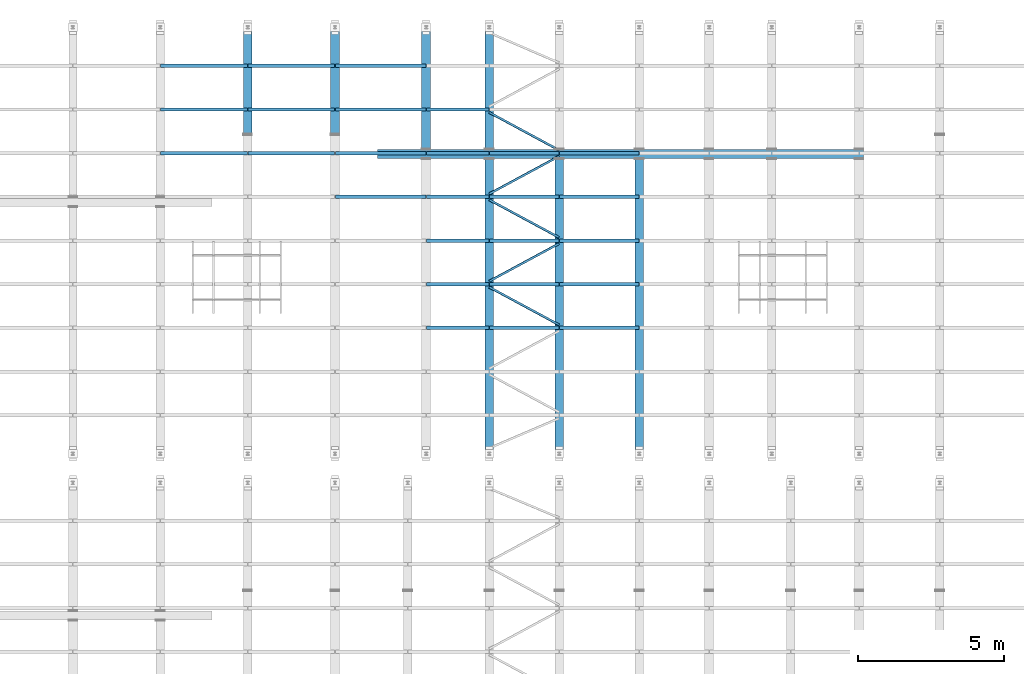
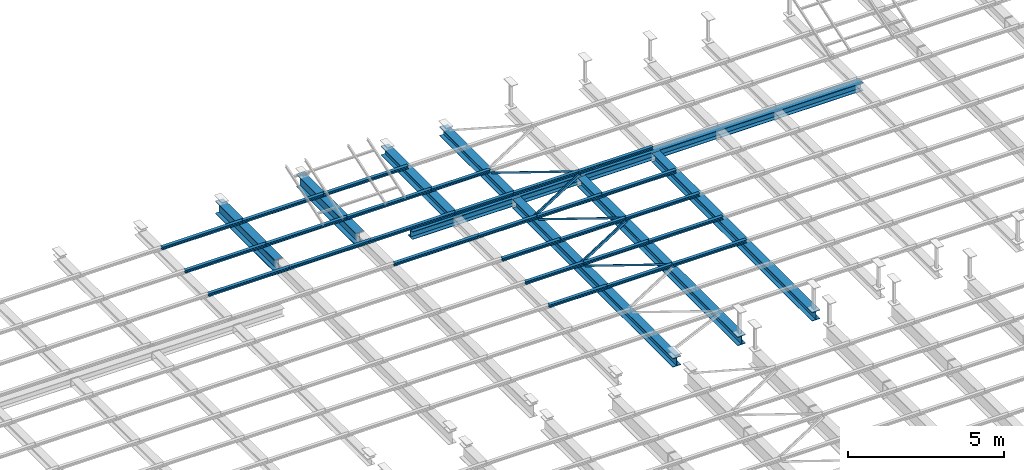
# One storey, part 83 of 139: 39 beams.
"""IFC2X3 building model written with IfcOpenShell, lengths in metres."""

from ifc_helpers import new_model, entity, si_unit, converted_unit, derived_unit, frame, origin, place, context, subcontext, project, spatial, polyline, outline, extrude, material, element, save


model = new_model("IFC2X3")

# Units and contexts
model_context = context("Model", 3, precision=1e-05, world=origin())
body_context = subcontext(model_context, "Body", "Model", "MODEL_VIEW")
ifc_project = project(units=[si_unit("LENGTHUNIT", "METRE"), si_unit("AREAUNIT", "SQUARE_METRE"), si_unit("VOLUMEUNIT", "CUBIC_METRE"), si_unit("MASSUNIT", "GRAM", prefix="KILO"), converted_unit("PLANEANGLEUNIT", "DEGREE", entity("IfcPlaneAngleMeasure", 0.0174532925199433), si_unit("PLANEANGLEUNIT", "RADIAN"), dimensions=[0, 0, 0, 0, 0, 0, 0]), derived_unit("THERMALTRANSMITTANCEUNIT", [(si_unit("POWERUNIT", "WATT"), 1), (si_unit("THERMODYNAMICTEMPERATUREUNIT", "KELVIN"), -1), (si_unit("LENGTHUNIT", "METRE"), -2)]), derived_unit("VOLUMETRICFLOWRATEUNIT", [(si_unit("LENGTHUNIT", "METRE"), 3), (converted_unit("TIMEUNIT", "hour", entity("IfcTimeMeasure", 3600.0), si_unit("TIMEUNIT", "SECOND"), dimensions=[0, 0, 1, 0, 0, 0, 0]), -1), (si_unit("LENGTHUNIT", "METRE"), -1)])], contexts=[model_context])

# Site, building, storey
site_placement = place(None, origin())
site = spatial("IfcSite", under=ifc_project, at=site_placement, Name="TWP_Speiseverteilzentrum SBW VZ II", CompositionType="ELEMENT")
building_placement = place(site_placement, origin())
building = spatial("IfcBuilding", under=site, at=building_placement, Name="Speiseverteilzentrum SBW VZ II", CompositionType="ELEMENT")
storey_placement = place(building_placement, frame((0.0, 0.0, 7.1307)))
storey = spatial("IfcBuildingStorey", under=building, at=storey_placement, Name="Wartung_FFB", CompositionType="ELEMENT", Elevation=7.1307)

# Beams
ifc_material_1 = material(Name="S235")
beam_1_placement = place(storey_placement, frame((80.5146643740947, 81.1994153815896, -0.345), z_axis=(0.0, 0.0, 1.0), x_axis=(-1.22464679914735e-16, -1.0, 0.0)))
element("IfcBeam", 1, at=beam_1_placement, inside=storey, material=ifc_material_1, Name="Stahlträger", context=body_context, shape_type="SweptSolid", body=[
    extrude(outline(polyline([(-0.15, 0.155), (-0.15, 0.1395), (-0.00449999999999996, 0.1395), (-0.00449999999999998, -0.1395), (-0.15, -0.1395), (-0.15, -0.155), (0.15, -0.155), (0.15, -0.1395), (0.00450000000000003, -0.1395), (0.00450000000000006, 0.1395), (0.15, 0.1395), (0.15, 0.155), (-0.15, 0.155)])), frame((0.0, 0.0, 0.0), z_axis=(0.0, 1.0, 0.0), x_axis=(-1.0, 0.0, 0.0)), (0.0, 0.0, 1.0), 16.6853356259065),
])
ifc_material_2 = material(Name="S235")
beam_2_placement = place(storey_placement, frame((79.0500000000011, 85.7000000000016, -0.435), z_axis=(0.0, 0.0, 1.0), x_axis=(-1.0, 0.0, 0.0)))
element("IfcBeam", 2, at=beam_2_placement, inside=storey, material=ifc_material_2, Name="Stahlträger", context=body_context, shape_type="SweptSolid", body=[
    extrude(outline(polyline([(-0.15, 0.245), (-0.15, 0.222), (-0.00599999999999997, 0.222), (-0.006, -0.222), (-0.15, -0.222), (-0.15, -0.245), (0.15, -0.245), (0.15, -0.222), (0.00600000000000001, -0.222), (0.00600000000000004, 0.222), (0.15, 0.222), (0.15, 0.245), (-0.15, 0.245)])), frame((0.0, 0.0, 0.0), z_axis=(0.0, 1.0, 0.0), x_axis=(-1.0, 0.0, 0.0)), (0.0, 0.0, 1.0), 3.80699999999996),
])
ifc_material_3 = material(Name="S235")
beam_3_placement = place(storey_placement, frame((76.0500000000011, 85.7000000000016, -0.435), z_axis=(0.0, 0.0, 1.0), x_axis=(-1.0, 0.0, 0.0)))
element("IfcBeam", 3, at=beam_3_placement, inside=storey, material=ifc_material_3, Name="Stahlträger", context=body_context, shape_type="SweptSolid", body=[
    extrude(outline(polyline([(-0.15, 0.245), (-0.15, 0.222), (-0.00599999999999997, 0.222), (-0.006, -0.222), (-0.15, -0.222), (-0.15, -0.245), (0.15, -0.245), (0.15, -0.222), (0.00600000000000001, -0.222), (0.00600000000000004, 0.222), (0.15, 0.222), (0.15, 0.245), (-0.15, 0.245)])), frame((0.0, 0.0, 0.0), z_axis=(0.0, 1.0, 0.0), x_axis=(-1.0, 0.0, 0.0)), (0.0, 0.0, 1.0), 3.80699999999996),
])
ifc_material_4 = material(Name="S235")
beam_4_placement = place(storey_placement, frame((84.3500000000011, 85.7000000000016, -0.365), z_axis=(0.0, 0.0, 1.0), x_axis=(-1.0, 0.0, 0.0)))
element("IfcBeam", 4, at=beam_4_placement, inside=storey, material=ifc_material_4, Name="Stahlträger", context=body_context, shape_type="SweptSolid", body=[
    extrude(outline(polyline([(-0.15, 0.175), (-0.15, 0.1575), (-0.00500000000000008, 0.1575), (-0.0050000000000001, -0.1575), (-0.15, -0.1575), (-0.15, -0.175), (0.15, -0.175), (0.15, -0.1575), (0.0049999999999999, -0.1575), (0.00499999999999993, 0.1575), (0.15, 0.1575), (0.15, 0.175), (-0.15, 0.175)])), frame((0.0, 0.0, 0.0), z_axis=(0.0, 1.0, 0.0), x_axis=(-1.0, 0.0, 0.0)), (0.0, 0.0, 1.0), 4.32558461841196),
])
ifc_material_5 = material(Name="S235")
beam_5_placement = place(storey_placement, frame((82.1800000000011, 85.7000000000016, -0.365), z_axis=(0.0, 0.0, 1.0), x_axis=(-1.0, 0.0, 0.0)))
element("IfcBeam", 5, at=beam_5_placement, inside=storey, material=ifc_material_5, Name="Stahlträger", context=body_context, shape_type="SweptSolid", body=[
    extrude(outline(polyline([(-0.15, 0.175), (-0.15, 0.1575), (-0.00500000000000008, 0.1575), (-0.0050000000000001, -0.1575), (-0.15, -0.1575), (-0.15, -0.175), (0.15, -0.175), (0.15, -0.1575), (0.0049999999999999, -0.1575), (0.00499999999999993, 0.1575), (0.15, 0.1575), (0.15, 0.175), (-0.15, 0.175)])), frame((0.0, 0.0, 0.0), z_axis=(0.0, 1.0, 0.0), x_axis=(-1.0, 0.0, 0.0)), (0.0, 0.0, 1.0), 4.32558461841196),
])
ifc_material_6 = material(Name="S235")
beam_6_placement = place(storey_placement, frame((84.3500000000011, 81.0244153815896, -0.365), z_axis=(0.0, 0.0, 1.0), x_axis=(-1.0, 0.0, 0.0)))
element("IfcBeam", 6, at=beam_6_placement, inside=storey, material=ifc_material_6, Name="Stahlträger", context=body_context, shape_type="SweptSolid", body=[
    extrude(outline(polyline([(-0.15, 0.175), (-0.15, 0.1575), (-0.00500000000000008, 0.1575), (-0.0050000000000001, -0.1575), (-0.15, -0.1575), (-0.15, -0.175), (0.15, -0.175), (0.15, -0.1575), (0.0049999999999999, -0.1575), (0.00499999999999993, 0.1575), (0.15, 0.1575), (0.15, 0.175), (-0.15, 0.175)])), frame((0.0, 0.0, 0.0), z_axis=(0.0, 1.0, 0.0), x_axis=(-1.0, 0.0, 0.0)), (0.0, 0.0, 1.0), 10.272162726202),
])
ifc_material_7 = material(Name="S235")
beam_7_placement = place(storey_placement, frame((86.7500000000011, 81.0244153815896, -0.365), z_axis=(0.0, 0.0, 1.0), x_axis=(-1.0, 0.0, 0.0)))
element("IfcBeam", 7, at=beam_7_placement, inside=storey, material=ifc_material_7, Name="Stahlträger", context=body_context, shape_type="SweptSolid", body=[
    extrude(outline(polyline([(-0.15, 0.175), (-0.15, 0.1575), (-0.00500000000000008, 0.1575), (-0.0050000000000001, -0.1575), (-0.15, -0.1575), (-0.15, -0.175), (0.15, -0.175), (0.15, -0.1575), (0.0049999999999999, -0.1575), (0.00499999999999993, 0.1575), (0.15, 0.1575), (0.15, 0.175), (-0.15, 0.175)])), frame((0.0, 0.0, 0.0), z_axis=(0.0, 1.0, 0.0), x_axis=(-1.0, 0.0, 0.0)), (0.0, 0.0, 1.0), 10.272162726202),
])
ifc_material_8 = material(Name="S235")
beam_8_placement = place(storey_placement, frame((89.5000000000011, 81.0244153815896, -0.365), z_axis=(0.0, 0.0, 1.0), x_axis=(-1.0, 0.0, 0.0)))
element("IfcBeam", 8, at=beam_8_placement, inside=storey, material=ifc_material_8, Name="Stahlträger", context=body_context, shape_type="SweptSolid", body=[
    extrude(outline(polyline([(-0.15, 0.175), (-0.15, 0.1575), (-0.00500000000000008, 0.1575), (-0.0050000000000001, -0.1575), (-0.15, -0.1575), (-0.15, -0.175), (0.15, -0.175), (0.15, -0.1575), (0.0049999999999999, -0.1575), (0.00499999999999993, 0.1575), (0.15, 0.1575), (0.15, 0.175), (-0.15, 0.175)])), frame((0.0, 0.0, 0.0), z_axis=(0.0, 1.0, 0.0), x_axis=(-1.0, 0.0, 0.0)), (0.0, 0.0, 1.0), 10.272162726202),
])
ifc_material_9 = material(Name="S235")
beam_9_placement = place(storey_placement, frame((73.0600000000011, 84.2261263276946, -0.133), z_axis=(0.0, 0.0, 1.0), x_axis=(0.0, -1.0, 0.0)))
element("IfcBeam", 9, at=beam_9_placement, inside=storey, material=ifc_material_9, Name="Nebenträger", context=body_context, shape_type="SweptSolid", body=[
    extrude(outline(polyline([(-0.06, 0.0570000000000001), (-0.06, 0.0490000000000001), (-0.00249999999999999, 0.0490000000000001), (-0.0025, -0.0489999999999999), (-0.06, -0.0489999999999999), (-0.06, -0.0569999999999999), (0.06, -0.0569999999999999), (0.06, -0.0489999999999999), (0.0025, -0.0489999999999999), (0.00250000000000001, 0.0490000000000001), (0.06, 0.0490000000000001), (0.06, 0.0570000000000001), (-0.06, 0.0570000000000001)])), frame((0.0, 0.0, 0.0), z_axis=(0.0, 1.0, 0.0), x_axis=(-1.0, 0.0, 0.0)), (0.0, 0.0, 1.0), 2.98),
])
ifc_material_10 = material(Name="S235")
beam_10_placement = place(storey_placement, frame((76.0600000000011, 84.2261263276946, -0.133), z_axis=(0.0, 0.0, 1.0), x_axis=(0.0, -1.0, 0.0)))
element("IfcBeam", 10, at=beam_10_placement, inside=storey, material=ifc_material_10, Name="Nebenträger", context=body_context, shape_type="SweptSolid", body=[
    extrude(outline(polyline([(-0.06, 0.0570000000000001), (-0.06, 0.0490000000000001), (-0.00249999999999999, 0.0490000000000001), (-0.0025, -0.0489999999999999), (-0.06, -0.0489999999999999), (-0.06, -0.0569999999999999), (0.06, -0.0569999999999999), (0.06, -0.0489999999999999), (0.0025, -0.0489999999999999), (0.00250000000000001, 0.0490000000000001), (0.06, 0.0490000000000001), (0.06, 0.0570000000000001), (-0.06, 0.0570000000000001)])), frame((0.0, 0.0, 0.0), z_axis=(0.0, 1.0, 0.0), x_axis=(-1.0, 0.0, 0.0)), (0.0, 0.0, 1.0), 2.98),
])
ifc_material_11 = material(Name="S235")
beam_11_placement = place(storey_placement, frame((73.0600000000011, 82.7261263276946, -0.133), z_axis=(0.0, 0.0, 1.0), x_axis=(0.0, -1.0, 0.0)))
element("IfcBeam", 11, at=beam_11_placement, inside=storey, material=ifc_material_11, Name="Nebenträger", context=body_context, shape_type="SweptSolid", body=[
    extrude(outline(polyline([(-0.06, 0.0570000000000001), (-0.06, 0.0490000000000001), (-0.00249999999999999, 0.0490000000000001), (-0.0025, -0.0489999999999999), (-0.06, -0.0489999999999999), (-0.06, -0.0569999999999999), (0.06, -0.0569999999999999), (0.06, -0.0489999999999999), (0.0025, -0.0489999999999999), (0.00250000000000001, 0.0490000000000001), (0.06, 0.0490000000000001), (0.06, 0.0570000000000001), (-0.06, 0.0570000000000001)])), frame((0.0, 0.0, 0.0), z_axis=(0.0, 1.0, 0.0), x_axis=(-1.0, 0.0, 0.0)), (0.0, 0.0, 1.0), 2.98),
])
ifc_material_12 = material(Name="S235")
beam_12_placement = place(storey_placement, frame((76.0600000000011, 82.7261263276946, -0.133), z_axis=(0.0, 0.0, 1.0), x_axis=(0.0, -1.0, 0.0)))
element("IfcBeam", 12, at=beam_12_placement, inside=storey, material=ifc_material_12, Name="Nebenträger", context=body_context, shape_type="SweptSolid", body=[
    extrude(outline(polyline([(-0.06, 0.0570000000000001), (-0.06, 0.0490000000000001), (-0.00249999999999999, 0.0490000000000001), (-0.0025, -0.0489999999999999), (-0.06, -0.0489999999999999), (-0.06, -0.0569999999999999), (0.06, -0.0569999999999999), (0.06, -0.0489999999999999), (0.0025, -0.0489999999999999), (0.00250000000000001, 0.0490000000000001), (0.06, 0.0490000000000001), (0.06, 0.0570000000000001), (-0.06, 0.0570000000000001)])), frame((0.0, 0.0, 0.0), z_axis=(0.0, 1.0, 0.0), x_axis=(-1.0, 0.0, 0.0)), (0.0, 0.0, 1.0), 2.98),
])
ifc_material_13 = material(Name="S235")
beam_13_placement = place(storey_placement, frame((73.0600000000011, 81.2261263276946, -0.133), z_axis=(0.0, 0.0, 1.0), x_axis=(0.0, -1.0, 0.0)))
element("IfcBeam", 13, at=beam_13_placement, inside=storey, material=ifc_material_13, Name="Nebenträger", context=body_context, shape_type="SweptSolid", body=[
    extrude(outline(polyline([(-0.06, 0.0570000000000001), (-0.06, 0.0490000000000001), (-0.00249999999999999, 0.0490000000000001), (-0.0025, -0.0489999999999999), (-0.06, -0.0489999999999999), (-0.06, -0.0569999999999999), (0.06, -0.0569999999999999), (0.06, -0.0489999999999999), (0.0025, -0.0489999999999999), (0.00250000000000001, 0.0490000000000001), (0.06, 0.0490000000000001), (0.06, 0.0570000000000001), (-0.06, 0.0570000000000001)])), frame((0.0, 0.0, 0.0), z_axis=(0.0, 1.0, 0.0), x_axis=(-1.0, 0.0, 0.0)), (0.0, 0.0, 1.0), 2.98),
])
ifc_material_14 = material(Name="S235")
beam_14_placement = place(storey_placement, frame((76.0600000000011, 81.2261263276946, -0.133), z_axis=(0.0, 0.0, 1.0), x_axis=(0.0, -1.0, 0.0)))
element("IfcBeam", 14, at=beam_14_placement, inside=storey, material=ifc_material_14, Name="Nebenträger", context=body_context, shape_type="SweptSolid", body=[
    extrude(outline(polyline([(-0.06, 0.0570000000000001), (-0.06, 0.0490000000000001), (-0.00249999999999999, 0.0490000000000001), (-0.0025, -0.0489999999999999), (-0.06, -0.0489999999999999), (-0.06, -0.0569999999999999), (0.06, -0.0569999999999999), (0.06, -0.0489999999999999), (0.0025, -0.0489999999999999), (0.00250000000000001, 0.0490000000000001), (0.06, 0.0490000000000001), (0.06, 0.0570000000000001), (-0.06, 0.0570000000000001)])), frame((0.0, 0.0, 0.0), z_axis=(0.0, 1.0, 0.0), x_axis=(-1.0, 0.0, 0.0)), (0.0, 0.0, 1.0), 2.98),
])
ifc_material_15 = material(Name="S235")
beam_15_placement = place(storey_placement, frame((86.7600000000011, 81.2261263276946, -0.133), z_axis=(0.0, 0.0, 1.0), x_axis=(0.0, -1.0, 0.0)))
element("IfcBeam", 15, at=beam_15_placement, inside=storey, material=ifc_material_15, Name="Nebenträger", context=body_context, shape_type="SweptSolid", body=[
    extrude(outline(polyline([(-0.06, 0.0570000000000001), (-0.06, 0.0490000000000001), (-0.00249999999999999, 0.0490000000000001), (-0.0025, -0.0489999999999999), (-0.06, -0.0489999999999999), (-0.06, -0.0569999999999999), (0.06, -0.0569999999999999), (0.06, -0.0489999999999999), (0.0025, -0.0489999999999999), (0.00250000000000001, 0.0490000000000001), (0.06, 0.0490000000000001), (0.06, 0.0570000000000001), (-0.06, 0.0570000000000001)])), frame((0.0, 0.0, 0.0), z_axis=(0.0, 1.0, 0.0), x_axis=(-1.0, 0.0, 0.0)), (0.0, 0.0, 1.0), 2.73),
])
ifc_material_16 = material(Name="S235")
beam_16_placement = place(storey_placement, frame((86.7600000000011, 79.7261263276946, -0.133), z_axis=(0.0, 0.0, 1.0), x_axis=(0.0, -1.0, 0.0)))
element("IfcBeam", 16, at=beam_16_placement, inside=storey, material=ifc_material_16, Name="Nebenträger", context=body_context, shape_type="SweptSolid", body=[
    extrude(outline(polyline([(-0.06, 0.0570000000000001), (-0.06, 0.0490000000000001), (-0.00249999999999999, 0.0490000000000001), (-0.0025, -0.0489999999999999), (-0.06, -0.0489999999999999), (-0.06, -0.0569999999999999), (0.06, -0.0569999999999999), (0.06, -0.0489999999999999), (0.0025, -0.0489999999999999), (0.00250000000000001, 0.0490000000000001), (0.06, 0.0490000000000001), (0.06, 0.0570000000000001), (-0.06, 0.0570000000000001)])), frame((0.0, 0.0, 0.0), z_axis=(0.0, 1.0, 0.0), x_axis=(-1.0, 0.0, 0.0)), (0.0, 0.0, 1.0), 2.73),
])
ifc_material_17 = material(Name="S235")
beam_17_placement = place(storey_placement, frame((86.7600000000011, 78.2261263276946, -0.133), z_axis=(0.0, 0.0, 1.0), x_axis=(0.0, -1.0, 0.0)))
element("IfcBeam", 17, at=beam_17_placement, inside=storey, material=ifc_material_17, Name="Nebenträger", context=body_context, shape_type="SweptSolid", body=[
    extrude(outline(polyline([(-0.06, 0.0570000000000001), (-0.06, 0.0490000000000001), (-0.00249999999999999, 0.0490000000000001), (-0.0025, -0.0489999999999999), (-0.06, -0.0489999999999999), (-0.06, -0.0569999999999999), (0.06, -0.0569999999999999), (0.06, -0.0489999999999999), (0.0025, -0.0489999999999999), (0.00250000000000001, 0.0490000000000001), (0.06, 0.0490000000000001), (0.06, 0.0570000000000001), (-0.06, 0.0570000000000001)])), frame((0.0, 0.0, 0.0), z_axis=(0.0, 1.0, 0.0), x_axis=(-1.0, 0.0, 0.0)), (0.0, 0.0, 1.0), 2.73),
])
ifc_material_18 = material(Name="S235")
beam_18_placement = place(storey_placement, frame((86.7600000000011, 76.7261263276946, -0.133), z_axis=(0.0, 0.0, 1.0), x_axis=(0.0, -1.0, 0.0)))
element("IfcBeam", 18, at=beam_18_placement, inside=storey, material=ifc_material_18, Name="Nebenträger", context=body_context, shape_type="SweptSolid", body=[
    extrude(outline(polyline([(-0.06, 0.0570000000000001), (-0.06, 0.0490000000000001), (-0.00249999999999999, 0.0490000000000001), (-0.0025, -0.0489999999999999), (-0.06, -0.0489999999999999), (-0.06, -0.0569999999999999), (0.06, -0.0569999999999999), (0.06, -0.0489999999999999), (0.0025, -0.0489999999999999), (0.00250000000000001, 0.0490000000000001), (0.06, 0.0490000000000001), (0.06, 0.0570000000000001), (-0.06, 0.0570000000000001)])), frame((0.0, 0.0, 0.0), z_axis=(0.0, 1.0, 0.0), x_axis=(-1.0, 0.0, 0.0)), (0.0, 0.0, 1.0), 2.73),
])
ifc_material_19 = material(Name="S235")
beam_19_placement = place(storey_placement, frame((86.7600000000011, 75.2261263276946, -0.133), z_axis=(0.0, 0.0, 1.0), x_axis=(0.0, -1.0, 0.0)))
element("IfcBeam", 19, at=beam_19_placement, inside=storey, material=ifc_material_19, Name="Nebenträger", context=body_context, shape_type="SweptSolid", body=[
    extrude(outline(polyline([(-0.06, 0.0570000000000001), (-0.06, 0.0490000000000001), (-0.00249999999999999, 0.0490000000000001), (-0.0025, -0.0489999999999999), (-0.06, -0.0489999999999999), (-0.06, -0.0569999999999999), (0.06, -0.0569999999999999), (0.06, -0.0489999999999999), (0.0025, -0.0489999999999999), (0.00250000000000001, 0.0490000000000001), (0.06, 0.0490000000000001), (0.06, 0.0570000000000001), (-0.06, 0.0570000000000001)])), frame((0.0, 0.0, 0.0), z_axis=(0.0, 1.0, 0.0), x_axis=(-1.0, 0.0, 0.0)), (0.0, 0.0, 1.0), 2.73),
])
ifc_material_20 = material(Name="S235")
beam_20_placement = place(storey_placement, frame((84.3600000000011, 81.2261263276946, -0.133), z_axis=(0.0, 0.0, 1.0), x_axis=(0.0, -1.0, 0.0)))
element("IfcBeam", 20, at=beam_20_placement, inside=storey, material=ifc_material_20, Name="Nebenträger", context=body_context, shape_type="SweptSolid", body=[
    extrude(outline(polyline([(-0.06, 0.0570000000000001), (-0.06, 0.0490000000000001), (-0.00249999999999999, 0.0490000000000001), (-0.0025, -0.0489999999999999), (-0.06, -0.0489999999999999), (-0.06, -0.0569999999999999), (0.06, -0.0569999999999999), (0.06, -0.0489999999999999), (0.0025, -0.0489999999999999), (0.00250000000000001, 0.0490000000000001), (0.06, 0.0490000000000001), (0.06, 0.0570000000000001), (-0.06, 0.0570000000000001)])), frame((0.0, 0.0, 0.0), z_axis=(0.0, 1.0, 0.0), x_axis=(-1.0, 0.0, 0.0)), (0.0, 0.0, 1.0), 2.38),
])
ifc_material_21 = material(Name="S235")
beam_21_placement = place(storey_placement, frame((84.3600000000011, 79.7261263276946, -0.133), z_axis=(0.0, 0.0, 1.0), x_axis=(0.0, -1.0, 0.0)))
element("IfcBeam", 21, at=beam_21_placement, inside=storey, material=ifc_material_21, Name="Nebenträger", context=body_context, shape_type="SweptSolid", body=[
    extrude(outline(polyline([(-0.06, 0.0570000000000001), (-0.06, 0.0490000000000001), (-0.00249999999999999, 0.0490000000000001), (-0.0025, -0.0489999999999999), (-0.06, -0.0489999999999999), (-0.06, -0.0569999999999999), (0.06, -0.0569999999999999), (0.06, -0.0489999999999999), (0.0025, -0.0489999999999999), (0.00250000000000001, 0.0490000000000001), (0.06, 0.0490000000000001), (0.06, 0.0570000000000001), (-0.06, 0.0570000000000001)])), frame((0.0, 0.0, 0.0), z_axis=(0.0, 1.0, 0.0), x_axis=(-1.0, 0.0, 0.0)), (0.0, 0.0, 1.0), 2.38),
])
ifc_material_22 = material(Name="S235")
beam_22_placement = place(storey_placement, frame((84.3600000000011, 78.2261263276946, -0.133), z_axis=(0.0, 0.0, 1.0), x_axis=(0.0, -1.0, 0.0)))
element("IfcBeam", 22, at=beam_22_placement, inside=storey, material=ifc_material_22, Name="Nebenträger", context=body_context, shape_type="SweptSolid", body=[
    extrude(outline(polyline([(-0.06, 0.0570000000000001), (-0.06, 0.0490000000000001), (-0.00249999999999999, 0.0490000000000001), (-0.0025, -0.0489999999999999), (-0.06, -0.0489999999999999), (-0.06, -0.0569999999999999), (0.06, -0.0569999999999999), (0.06, -0.0489999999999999), (0.0025, -0.0489999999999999), (0.00250000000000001, 0.0490000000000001), (0.06, 0.0490000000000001), (0.06, 0.0570000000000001), (-0.06, 0.0570000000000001)])), frame((0.0, 0.0, 0.0), z_axis=(0.0, 1.0, 0.0), x_axis=(-1.0, 0.0, 0.0)), (0.0, 0.0, 1.0), 2.38),
])
ifc_material_23 = material(Name="S235")
beam_23_placement = place(storey_placement, frame((84.3600000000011, 76.7261263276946, -0.133), z_axis=(0.0, 0.0, 1.0), x_axis=(0.0, -1.0, 0.0)))
element("IfcBeam", 23, at=beam_23_placement, inside=storey, material=ifc_material_23, Name="Nebenträger", context=body_context, shape_type="SweptSolid", body=[
    extrude(outline(polyline([(-0.06, 0.0570000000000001), (-0.06, 0.0490000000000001), (-0.00249999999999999, 0.0490000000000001), (-0.0025, -0.0489999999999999), (-0.06, -0.0489999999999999), (-0.06, -0.0569999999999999), (0.06, -0.0569999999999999), (0.06, -0.0489999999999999), (0.0025, -0.0489999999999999), (0.00250000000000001, 0.0490000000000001), (0.06, 0.0490000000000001), (0.06, 0.0570000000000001), (-0.06, 0.0570000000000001)])), frame((0.0, 0.0, 0.0), z_axis=(0.0, 1.0, 0.0), x_axis=(-1.0, 0.0, 0.0)), (0.0, 0.0, 1.0), 2.38),
])
ifc_material_24 = material(Name="S235")
beam_24_placement = place(storey_placement, frame((84.3600000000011, 75.2261263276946, -0.133), z_axis=(0.0, 0.0, 1.0), x_axis=(0.0, -1.0, 0.0)))
element("IfcBeam", 24, at=beam_24_placement, inside=storey, material=ifc_material_24, Name="Nebenträger", context=body_context, shape_type="SweptSolid", body=[
    extrude(outline(polyline([(-0.06, 0.0570000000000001), (-0.06, 0.0490000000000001), (-0.00249999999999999, 0.0490000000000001), (-0.0025, -0.0489999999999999), (-0.06, -0.0489999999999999), (-0.06, -0.0569999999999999), (0.06, -0.0569999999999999), (0.06, -0.0489999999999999), (0.0025, -0.0489999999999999), (0.00250000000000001, 0.0490000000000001), (0.06, 0.0490000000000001), (0.06, 0.0570000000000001), (-0.06, 0.0570000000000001)])), frame((0.0, 0.0, 0.0), z_axis=(0.0, 1.0, 0.0), x_axis=(-1.0, 0.0, 0.0)), (0.0, 0.0, 1.0), 2.38),
])
ifc_material_25 = material(Name="S235")
beam_25_placement = place(storey_placement, frame((79.0600000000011, 84.2261263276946, -0.133), z_axis=(0.0, 0.0, 1.0), x_axis=(0.0, -1.0, 0.0)))
element("IfcBeam", 25, at=beam_25_placement, inside=storey, material=ifc_material_25, Name="Nebenträger", context=body_context, shape_type="SweptSolid", body=[
    extrude(outline(polyline([(-0.06, 0.0570000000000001), (-0.06, 0.0490000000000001), (-0.00249999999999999, 0.0490000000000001), (-0.0025, -0.0489999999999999), (-0.06, -0.0489999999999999), (-0.06, -0.0569999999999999), (0.06, -0.0569999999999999), (0.06, -0.0489999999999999), (0.0025, -0.0489999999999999), (0.00250000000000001, 0.0490000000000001), (0.06, 0.0490000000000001), (0.06, 0.0570000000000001), (-0.06, 0.0570000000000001)])), frame((0.0, 0.0, 0.0), z_axis=(0.0, 1.0, 0.0), x_axis=(-1.0, 0.0, 0.0)), (0.0, 0.0, 1.0), 3.11),
])
ifc_material_26 = material(Name="S235")
beam_26_placement = place(storey_placement, frame((79.0600000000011, 82.7261263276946, -0.133), z_axis=(0.0, 0.0, 1.0), x_axis=(0.0, -1.0, 0.0)))
element("IfcBeam", 26, at=beam_26_placement, inside=storey, material=ifc_material_26, Name="Nebenträger", context=body_context, shape_type="SweptSolid", body=[
    extrude(outline(polyline([(-0.06, 0.0570000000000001), (-0.06, 0.0490000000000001), (-0.00249999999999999, 0.0490000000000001), (-0.0025, -0.0489999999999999), (-0.06, -0.0489999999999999), (-0.06, -0.0569999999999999), (0.06, -0.0569999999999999), (0.06, -0.0489999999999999), (0.0025, -0.0489999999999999), (0.00250000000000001, 0.0490000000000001), (0.06, 0.0490000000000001), (0.06, 0.0570000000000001), (-0.06, 0.0570000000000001)])), frame((0.0, 0.0, 0.0), z_axis=(0.0, 1.0, 0.0), x_axis=(-1.0, 0.0, 0.0)), (0.0, 0.0, 1.0), 3.11),
])
ifc_material_27 = material(Name="S235")
beam_27_placement = place(storey_placement, frame((79.0600000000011, 81.2261263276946, -0.133), z_axis=(0.0, 0.0, 1.0), x_axis=(0.0, -1.0, 0.0)))
element("IfcBeam", 27, at=beam_27_placement, inside=storey, material=ifc_material_27, Name="Nebenträger", context=body_context, shape_type="SweptSolid", body=[
    extrude(outline(polyline([(-0.06, 0.0570000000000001), (-0.06, 0.0490000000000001), (-0.00249999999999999, 0.0490000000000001), (-0.0025, -0.0489999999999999), (-0.06, -0.0489999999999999), (-0.06, -0.0569999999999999), (0.06, -0.0569999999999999), (0.06, -0.0489999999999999), (0.0025, -0.0489999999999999), (0.00250000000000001, 0.0490000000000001), (0.06, 0.0490000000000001), (0.06, 0.0570000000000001), (-0.06, 0.0570000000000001)])), frame((0.0, 0.0, 0.0), z_axis=(0.0, 1.0, 0.0), x_axis=(-1.0, 0.0, 0.0)), (0.0, 0.0, 1.0), 3.11),
])
ifc_material_28 = material(Name="S235")
beam_28_placement = place(storey_placement, frame((79.0600000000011, 79.7261263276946, -0.133), z_axis=(0.0, 0.0, 1.0), x_axis=(0.0, -1.0, 0.0)))
element("IfcBeam", 28, at=beam_28_placement, inside=storey, material=ifc_material_28, Name="Nebenträger", context=body_context, shape_type="SweptSolid", body=[
    extrude(outline(polyline([(-0.06, 0.0570000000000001), (-0.06, 0.0490000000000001), (-0.00249999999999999, 0.0490000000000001), (-0.0025, -0.0489999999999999), (-0.06, -0.0489999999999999), (-0.06, -0.0569999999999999), (0.06, -0.0569999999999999), (0.06, -0.0489999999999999), (0.0025, -0.0489999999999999), (0.00250000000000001, 0.0490000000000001), (0.06, 0.0490000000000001), (0.06, 0.0570000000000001), (-0.06, 0.0570000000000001)])), frame((0.0, 0.0, 0.0), z_axis=(0.0, 1.0, 0.0), x_axis=(-1.0, 0.0, 0.0)), (0.0, 0.0, 1.0), 3.11),
])
ifc_material_29 = material(Name="S235")
beam_29_placement = place(storey_placement, frame((82.1900000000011, 82.7261263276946, -0.133), z_axis=(0.0, 0.0, 1.0), x_axis=(0.0, -1.0, 0.0)))
element("IfcBeam", 29, at=beam_29_placement, inside=storey, material=ifc_material_29, Name="Nebenträger", context=body_context, shape_type="SweptSolid", body=[
    extrude(outline(polyline([(-0.06, 0.0570000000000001), (-0.06, 0.0490000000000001), (-0.00249999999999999, 0.0490000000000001), (-0.0025, -0.0489999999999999), (-0.06, -0.0489999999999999), (-0.06, -0.0569999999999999), (0.06, -0.0569999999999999), (0.06, -0.0489999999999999), (0.0025, -0.0489999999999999), (0.00250000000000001, 0.0490000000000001), (0.06, 0.0490000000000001), (0.06, 0.0570000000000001), (-0.06, 0.0570000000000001)])), frame((0.0, 0.0, 0.0), z_axis=(0.0, 1.0, 0.0), x_axis=(-1.0, 0.0, 0.0)), (0.0, 0.0, 1.0), 2.15),
])
ifc_material_30 = material(Name="S235")
beam_30_placement = place(storey_placement, frame((82.1900000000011, 81.2261263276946, -0.133), z_axis=(0.0, 0.0, 1.0), x_axis=(0.0, -1.0, 0.0)))
element("IfcBeam", 30, at=beam_30_placement, inside=storey, material=ifc_material_30, Name="Nebenträger", context=body_context, shape_type="SweptSolid", body=[
    extrude(outline(polyline([(-0.06, 0.0570000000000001), (-0.06, 0.0490000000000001), (-0.00249999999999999, 0.0490000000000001), (-0.0025, -0.0489999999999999), (-0.06, -0.0489999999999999), (-0.06, -0.0569999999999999), (0.06, -0.0569999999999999), (0.06, -0.0489999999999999), (0.0025, -0.0489999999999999), (0.00250000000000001, 0.0490000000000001), (0.06, 0.0490000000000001), (0.06, 0.0570000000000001), (-0.06, 0.0570000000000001)])), frame((0.0, 0.0, 0.0), z_axis=(0.0, 1.0, 0.0), x_axis=(-1.0, 0.0, 0.0)), (0.0, 0.0, 1.0), 2.15),
])
ifc_material_31 = material(Name="S235")
beam_31_placement = place(storey_placement, frame((82.1900000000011, 79.7261263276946, -0.133), z_axis=(0.0, 0.0, 1.0), x_axis=(0.0, -1.0, 0.0)))
element("IfcBeam", 31, at=beam_31_placement, inside=storey, material=ifc_material_31, Name="Nebenträger", context=body_context, shape_type="SweptSolid", body=[
    extrude(outline(polyline([(-0.06, 0.0570000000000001), (-0.06, 0.0490000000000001), (-0.00249999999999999, 0.0490000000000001), (-0.0025, -0.0489999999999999), (-0.06, -0.0489999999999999), (-0.06, -0.0569999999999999), (0.06, -0.0569999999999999), (0.06, -0.0489999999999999), (0.0025, -0.0489999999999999), (0.00250000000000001, 0.0490000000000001), (0.06, 0.0490000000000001), (0.06, 0.0570000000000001), (-0.06, 0.0570000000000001)])), frame((0.0, 0.0, 0.0), z_axis=(0.0, 1.0, 0.0), x_axis=(-1.0, 0.0, 0.0)), (0.0, 0.0, 1.0), 2.15),
])
ifc_material_32 = material(Name="S235")
beam_32_placement = place(storey_placement, frame((82.1900000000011, 78.2261263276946, -0.133), z_axis=(0.0, 0.0, 1.0), x_axis=(0.0, -1.0, 0.0)))
element("IfcBeam", 32, at=beam_32_placement, inside=storey, material=ifc_material_32, Name="Nebenträger", context=body_context, shape_type="SweptSolid", body=[
    extrude(outline(polyline([(-0.06, 0.0570000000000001), (-0.06, 0.0490000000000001), (-0.00249999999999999, 0.0490000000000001), (-0.0025, -0.0489999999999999), (-0.06, -0.0489999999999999), (-0.06, -0.0569999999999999), (0.06, -0.0569999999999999), (0.06, -0.0489999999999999), (0.0025, -0.0489999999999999), (0.00250000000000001, 0.0490000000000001), (0.06, 0.0490000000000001), (0.06, 0.0570000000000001), (-0.06, 0.0570000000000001)])), frame((0.0, 0.0, 0.0), z_axis=(0.0, 1.0, 0.0), x_axis=(-1.0, 0.0, 0.0)), (0.0, 0.0, 1.0), 2.15),
])
ifc_material_33 = material(Name="S235")
beam_33_placement = place(storey_placement, frame((82.1900000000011, 76.7261263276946, -0.133), z_axis=(0.0, 0.0, 1.0), x_axis=(0.0, -1.0, 0.0)))
element("IfcBeam", 33, at=beam_33_placement, inside=storey, material=ifc_material_33, Name="Nebenträger", context=body_context, shape_type="SweptSolid", body=[
    extrude(outline(polyline([(-0.06, 0.0570000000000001), (-0.06, 0.0490000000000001), (-0.00249999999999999, 0.0490000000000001), (-0.0025, -0.0489999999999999), (-0.06, -0.0489999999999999), (-0.06, -0.0569999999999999), (0.06, -0.0569999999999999), (0.06, -0.0489999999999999), (0.0025, -0.0489999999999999), (0.00250000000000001, 0.0490000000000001), (0.06, 0.0490000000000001), (0.06, 0.0570000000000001), (-0.06, 0.0570000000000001)])), frame((0.0, 0.0, 0.0), z_axis=(0.0, 1.0, 0.0), x_axis=(-1.0, 0.0, 0.0)), (0.0, 0.0, 1.0), 2.15),
])
ifc_material_34 = material(Name="S235")
beam_34_placement = place(storey_placement, frame((82.1900000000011, 75.2261263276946, -0.133), z_axis=(0.0, 0.0, 1.0), x_axis=(0.0, -1.0, 0.0)))
element("IfcBeam", 34, at=beam_34_placement, inside=storey, material=ifc_material_34, Name="Nebenträger", context=body_context, shape_type="SweptSolid", body=[
    extrude(outline(polyline([(-0.06, 0.0570000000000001), (-0.06, 0.0490000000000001), (-0.00249999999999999, 0.0490000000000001), (-0.0025, -0.0489999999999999), (-0.06, -0.0489999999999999), (-0.06, -0.0569999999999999), (0.06, -0.0569999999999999), (0.06, -0.0489999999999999), (0.0025, -0.0489999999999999), (0.00250000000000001, 0.0490000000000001), (0.06, 0.0490000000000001), (0.06, 0.0570000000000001), (-0.06, 0.0570000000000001)])), frame((0.0, 0.0, 0.0), z_axis=(0.0, 1.0, 0.0), x_axis=(-1.0, 0.0, 0.0)), (0.0, 0.0, 1.0), 2.15),
])
ifc_material_35 = material(Name="S235")
beam_35_placement = place(storey_placement, frame((84.3361915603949, 82.6099120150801, -0.167052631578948), z_axis=(0.0, 0.0, 1.0), x_axis=(-0.47480336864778, -0.880091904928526, 0.0)))
element("IfcBeam", 35, at=beam_35_placement, inside=storey, material=ifc_material_35, Name="Kreuzverband", context=body_context, shape_type="SweptSolid", body=[
    extrude(outline(polyline([(0.0570526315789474, -0.0229473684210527), (0.0570526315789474, -0.0149473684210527), (-0.0149473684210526, -0.0149473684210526), (-0.0149473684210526, 0.0570526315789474), (-0.0229473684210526, 0.0570526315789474), (-0.0229473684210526, -0.0229473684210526), (0.0570526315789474, -0.0229473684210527)])), frame((0.0, 0.0, 0.0), z_axis=(0.0, 1.00000000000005, 0.0), x_axis=(-1.0, 0.0, 0.0)), (0.0, 0.0, 1.0), 2.73000000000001),
])
ifc_material_36 = material(Name="S235")
beam_36_placement = place(storey_placement, frame((84.3361915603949, 79.842340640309, -0.167052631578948), z_axis=(0.0, 0.0, 1.0), x_axis=(0.474803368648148, -0.880091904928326, 0.0)))
element("IfcBeam", 36, at=beam_36_placement, inside=storey, material=ifc_material_36, Name="Kreuzverband", context=body_context, shape_type="SweptSolid", body=[
    extrude(outline(polyline([(0.0229473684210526, -0.0229473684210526), (0.0229473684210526, 0.0570526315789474), (0.0149473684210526, 0.0570526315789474), (0.0149473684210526, -0.0149473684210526), (-0.0570526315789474, -0.0149473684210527), (-0.0570526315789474, -0.0229473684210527), (0.0229473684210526, -0.0229473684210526)])), frame((0.0, 0.0, 0.0), z_axis=(0.0, 1.00000000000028, 0.0), x_axis=(-1.0, 0.0, 0.0)), (0.0, 0.0, 1.0), 2.73000000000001),
])
ifc_material_37 = material(Name="S235")
beam_37_placement = place(storey_placement, frame((84.3361915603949, 79.6099120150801, -0.167052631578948), z_axis=(0.0, 0.0, 1.0), x_axis=(-0.47480336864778, -0.880091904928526, 0.0)))
element("IfcBeam", 37, at=beam_37_placement, inside=storey, material=ifc_material_37, Name="Kreuzverband", context=body_context, shape_type="SweptSolid", body=[
    extrude(outline(polyline([(0.0570526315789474, -0.0229473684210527), (0.0570526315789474, -0.0149473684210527), (-0.0149473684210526, -0.0149473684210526), (-0.0149473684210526, 0.0570526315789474), (-0.0229473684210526, 0.0570526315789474), (-0.0229473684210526, -0.0229473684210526), (0.0570526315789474, -0.0229473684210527)])), frame((0.0, 0.0, 0.0), z_axis=(0.0, 1.00000000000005, 0.0), x_axis=(-1.0, 0.0, 0.0)), (0.0, 0.0, 1.0), 2.73000000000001),
])
ifc_material_38 = material(Name="S235")
beam_38_placement = place(storey_placement, frame((84.3361915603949, 76.842340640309, -0.167052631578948), z_axis=(0.0, 0.0, 1.0), x_axis=(0.474803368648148, -0.880091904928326, 0.0)))
element("IfcBeam", 38, at=beam_38_placement, inside=storey, material=ifc_material_38, Name="Kreuzverband", context=body_context, shape_type="SweptSolid", body=[
    extrude(outline(polyline([(0.0229473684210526, -0.0229473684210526), (0.0229473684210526, 0.0570526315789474), (0.0149473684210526, 0.0570526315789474), (0.0149473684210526, -0.0149473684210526), (-0.0570526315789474, -0.0149473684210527), (-0.0570526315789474, -0.0229473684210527), (0.0229473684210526, -0.0229473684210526)])), frame((0.0, 0.0, 0.0), z_axis=(0.0, 1.00000000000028, 0.0), x_axis=(-1.0, 0.0, 0.0)), (0.0, 0.0, 1.0), 2.73000000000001),
])
ifc_material_39 = material(Name="S235")
beam_39_placement = place(storey_placement, frame((84.3361915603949, 76.6099120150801, -0.167052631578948), z_axis=(0.0, 0.0, 1.0), x_axis=(-0.47480336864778, -0.880091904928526, 0.0)))
element("IfcBeam", 39, at=beam_39_placement, inside=storey, material=ifc_material_39, Name="Kreuzverband", context=body_context, shape_type="SweptSolid", body=[
    extrude(outline(polyline([(0.0570526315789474, -0.0229473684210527), (0.0570526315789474, -0.0149473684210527), (-0.0149473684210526, -0.0149473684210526), (-0.0149473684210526, 0.0570526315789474), (-0.0229473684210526, 0.0570526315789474), (-0.0229473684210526, -0.0229473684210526), (0.0570526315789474, -0.0229473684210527)])), frame((0.0, 0.0, 0.0), z_axis=(0.0, 1.00000000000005, 0.0), x_axis=(-1.0, 0.0, 0.0)), (0.0, 0.0, 1.0), 2.73000000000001),
])

save(model, "model.ifc")
